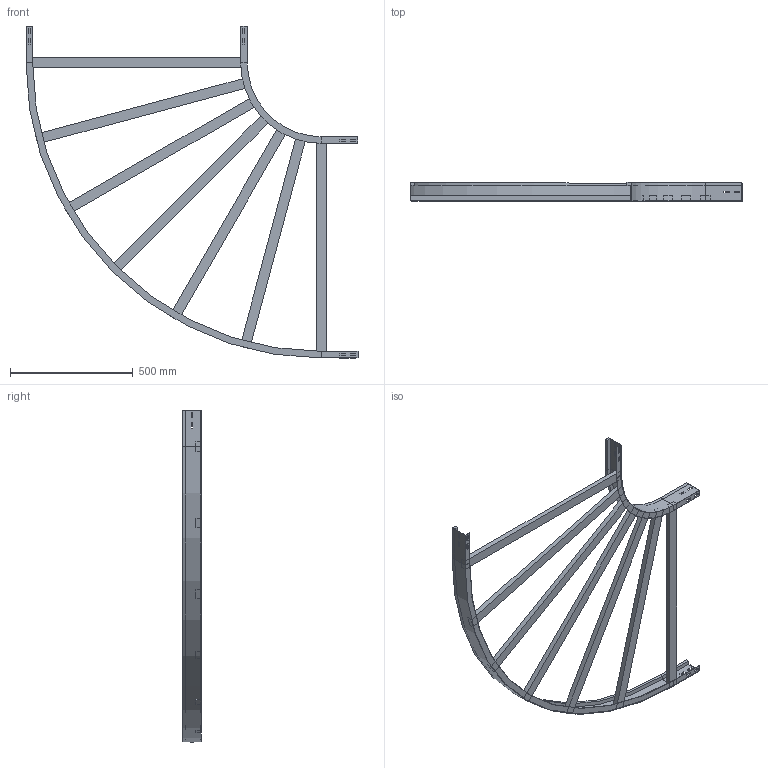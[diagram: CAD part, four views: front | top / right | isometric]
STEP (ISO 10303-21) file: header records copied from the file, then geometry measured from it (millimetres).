
FILE_DESCRIPTION (( 'STEP AP214' ), '1' );
FILE_NAME ('A2_10B3C900.step', '2025-02-21T15:26:43', ( '' ), ( '' ), 'SwSTEP 2.0', 'SolidWorks 2023', '' );
FILE_SCHEMA (( 'AUTOMOTIVE_DESIGN' ));
Length unit declared in the file: millimetre
Products named in the file (4): A2_LONGH.ESTERNO 90°_H75_R300+900; A2_LONGH.INTERNO 90°_H75_R300; TRAVERSINO_900; A2_10B3C900
Assembly tree (9 placements, depth 2):
  A2_10B3C900
    A2_LONGH.INTERNO 90°_H75_R300
    A2_LONGH.ESTERNO 90°_H75_R300+900
    TRAVERSINO_900  x7
Bounding box: 1350 x 75 x 1350 mm (x, y, z)
Volume: 6234220.2 mm3; surface area: 1466409.9 mm2
Topology: 9 solids, 9 shells, 158 faces, 388 edges, 248 vertices
Faces by surface type: plane 150, cylinder 8
Entity records: 3853 total; most frequent: CARTESIAN_POINT 650, ORIENTED_EDGE 632, DIRECTION 600, EDGE_CURVE 316, VECTOR 300, LINE 300, VERTEX_POINT 200, EDGE_LOOP 154
